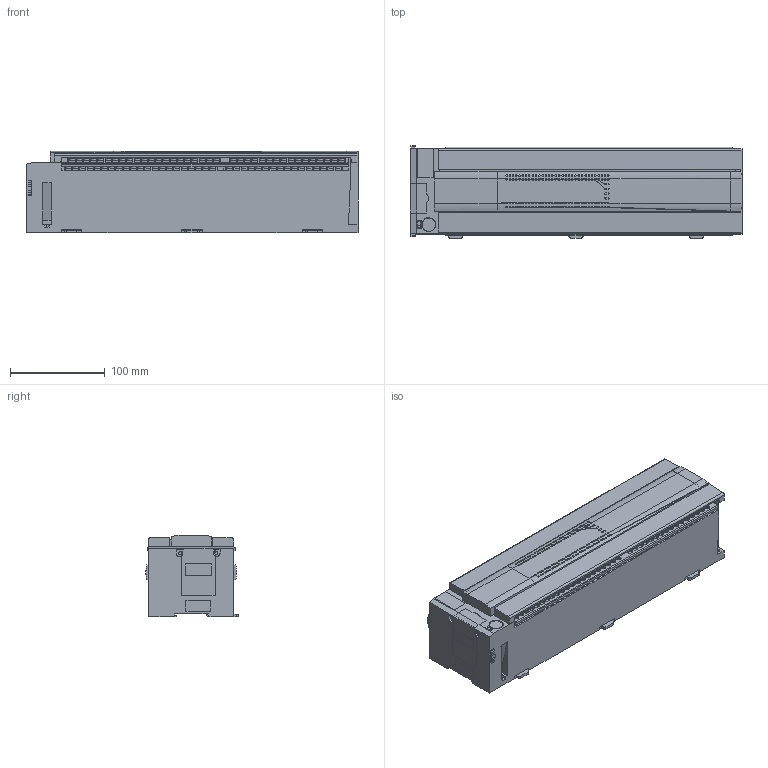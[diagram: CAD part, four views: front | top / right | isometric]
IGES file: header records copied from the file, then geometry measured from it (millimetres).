
Global section: file name: D:\tmp\PARASOLID_101216\FX3U-128MT_ES\FX3U-128MT_ES.igs; preprocessor: I-DEAS 3D IGES Translator 12; date: 20110223.140449; units: millimetre
Bounding box: 350 x 97.13 x 86 mm (x, y, z)
Volume: 2478271.3 mm3; surface area: 252023 mm2
Topology: 16 solids, 16 shells, 3014 faces, 8101 edges, 5348 vertices
Faces by surface type: bspline 3014
